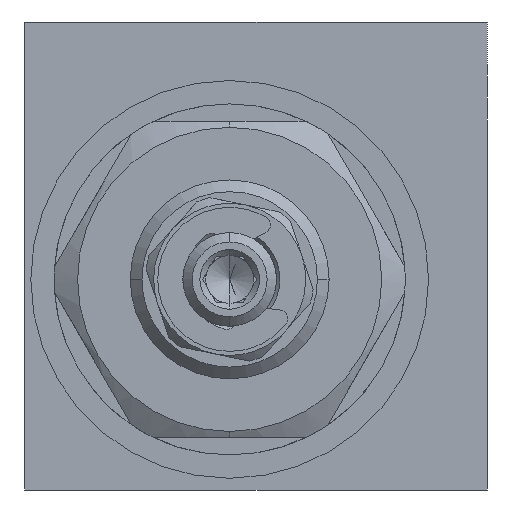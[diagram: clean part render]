
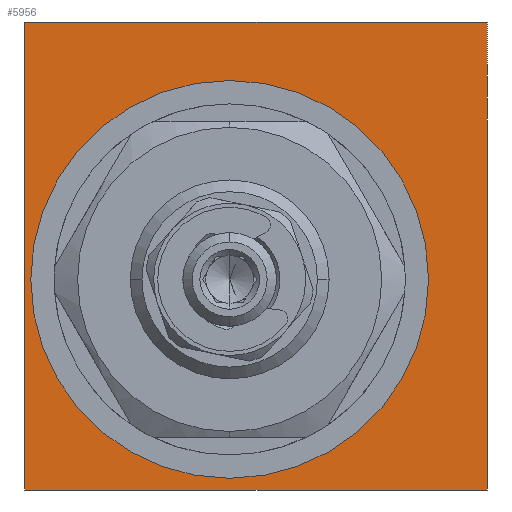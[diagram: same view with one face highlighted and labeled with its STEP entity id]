
A CAD part, left-side view. The second image highlights one B-rep face of the part: STEP entity #5956.
In plain terms, the highlighted planar face has unit normal (-1, 0, 0).
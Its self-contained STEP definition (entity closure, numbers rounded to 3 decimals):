
#422 = DIRECTION ( 'NONE',  ( -1., 0., 0. ) ) ;
#548 = LINE ( 'NONE', #12442, #10825 ) ;
#614 = CIRCLE ( 'NONE', #6778, 17. ) ;
#1100 = ORIENTED_EDGE ( 'NONE', *, *, #6485, .F. ) ;
#1134 = ORIENTED_EDGE ( 'NONE', *, *, #10699, .F. ) ;
#1484 = VERTEX_POINT ( 'NONE', #9221 ) ;
#1703 = CARTESIAN_POINT ( 'NONE',  ( 0., -19.75, 20. ) ) ;
#1786 = CARTESIAN_POINT ( 'NONE',  ( 0., 19.75, -20. ) ) ;
#2026 = EDGE_CURVE ( 'NONE', #4950, #1484, #614, .T. ) ;
#2054 = EDGE_CURVE ( 'NONE', #11226, #9054, #7357, .T. ) ;
#2777 = DIRECTION ( 'NONE',  ( 0., 0., 1. ) ) ;
#2815 = VECTOR ( 'NONE', #4959, 1000. ) ;
#2946 = EDGE_CURVE ( 'NONE', #4493, #9725, #548, .T. ) ;
#3144 = LINE ( 'NONE', #8974, #2815 ) ;
#3531 = DIRECTION ( 'NONE',  ( 0., 0., -1. ) ) ;
#3604 = AXIS2_PLACEMENT_3D ( 'NONE', #1786, #8771, #2777 ) ;
#3783 = ORIENTED_EDGE ( 'NONE', *, *, #2026, .F. ) ;
#4284 = VECTOR ( 'NONE', #5534, 1000. ) ;
#4378 = CARTESIAN_POINT ( 'NONE',  ( 0., 2.25, 15. ) ) ;
#4493 = VERTEX_POINT ( 'NONE', #1703 ) ;
#4950 = VERTEX_POINT ( 'NONE', #4378 ) ;
#4959 = DIRECTION ( 'NONE',  ( 0., -1., 0. ) ) ;
#5406 = CARTESIAN_POINT ( 'NONE',  ( 0., 19.75, -20. ) ) ;
#5471 = EDGE_LOOP ( 'NONE', ( #3783, #8189 ) ) ;
#5534 = DIRECTION ( 'NONE',  ( 0., 1., 0. ) ) ;
#5591 = DIRECTION ( 'NONE',  ( -1., 0., 0. ) ) ;
#5696 = EDGE_CURVE ( 'NONE', #1484, #4950, #9956, .T. ) ;
#5956 = ADVANCED_FACE ( 'NONE', ( #11930, #6672 ), #8170, .T. ) ;
#6401 = CARTESIAN_POINT ( 'NONE',  ( 0., 2.25, -2. ) ) ;
#6485 = EDGE_CURVE ( 'NONE', #9725, #11226, #11898, .T. ) ;
#6672 = FACE_OUTER_BOUND ( 'NONE', #12626, .T. ) ;
#6778 = AXIS2_PLACEMENT_3D ( 'NONE', #6401, #422, #7417 ) ;
#7024 = CARTESIAN_POINT ( 'NONE',  ( 0., -19.75, -20. ) ) ;
#7046 = VECTOR ( 'NONE', #12375, 1000. ) ;
#7357 = LINE ( 'NONE', #11370, #7046 ) ;
#7417 = DIRECTION ( 'NONE',  ( 0., 0., 1. ) ) ;
#7484 = CARTESIAN_POINT ( 'NONE',  ( 0., -19.75, -20. ) ) ;
#8029 = CARTESIAN_POINT ( 'NONE',  ( 0., 19.75, 20. ) ) ;
#8170 = PLANE ( 'NONE',  #3604 ) ;
#8189 = ORIENTED_EDGE ( 'NONE', *, *, #5696, .F. ) ;
#8771 = DIRECTION ( 'NONE',  ( -1., 0., 0. ) ) ;
#8854 = ORIENTED_EDGE ( 'NONE', *, *, #2054, .F. ) ;
#8974 = CARTESIAN_POINT ( 'NONE',  ( 0., -19.75, 20. ) ) ;
#9054 = VERTEX_POINT ( 'NONE', #8029 ) ;
#9221 = CARTESIAN_POINT ( 'NONE',  ( 0., 2.25, -19. ) ) ;
#9725 = VERTEX_POINT ( 'NONE', #7024 ) ;
#9956 = CIRCLE ( 'NONE', #11260, 17. ) ;
#10699 = EDGE_CURVE ( 'NONE', #9054, #4493, #3144, .T. ) ;
#10825 = VECTOR ( 'NONE', #3531, 1000. ) ;
#10965 = ORIENTED_EDGE ( 'NONE', *, *, #2946, .F. ) ;
#11226 = VERTEX_POINT ( 'NONE', #5406 ) ;
#11260 = AXIS2_PLACEMENT_3D ( 'NONE', #11530, #5591, #12545 ) ;
#11370 = CARTESIAN_POINT ( 'NONE',  ( 0., 19.75, 20. ) ) ;
#11530 = CARTESIAN_POINT ( 'NONE',  ( 0., 2.25, -2. ) ) ;
#11898 = LINE ( 'NONE', #7484, #4284 ) ;
#11930 = FACE_BOUND ( 'NONE', #5471, .T. ) ;
#12375 = DIRECTION ( 'NONE',  ( 0., 0., 1. ) ) ;
#12442 = CARTESIAN_POINT ( 'NONE',  ( 0., -19.75, 20. ) ) ;
#12545 = DIRECTION ( 'NONE',  ( 0., 0., 1. ) ) ;
#12626 = EDGE_LOOP ( 'NONE', ( #1100, #10965, #1134, #8854 ) ) ;
